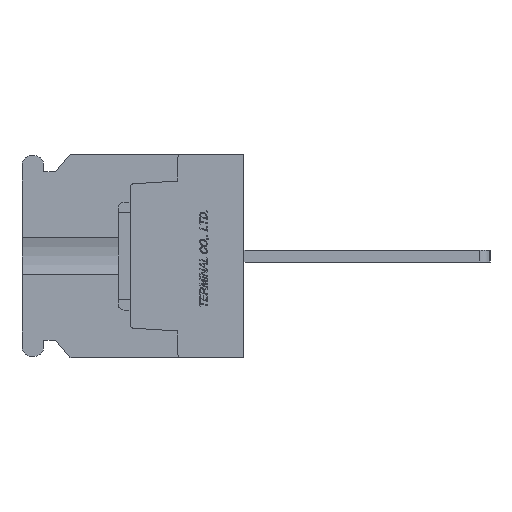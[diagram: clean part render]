
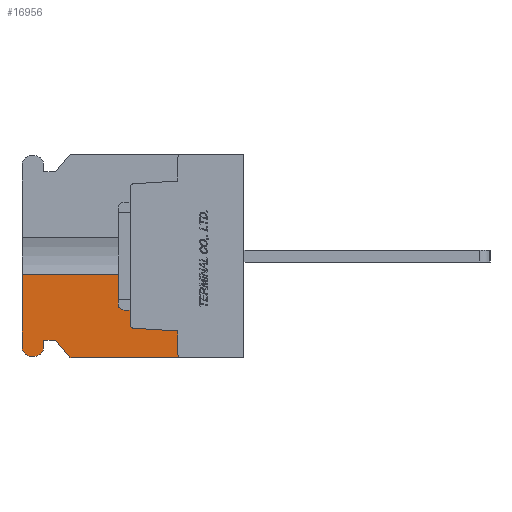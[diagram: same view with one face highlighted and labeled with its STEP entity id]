
A CAD part, left-side view. The second image highlights one B-rep face of the part: STEP entity #16956.
In plain terms, the highlighted planar face has unit normal (-1, 0, 0).
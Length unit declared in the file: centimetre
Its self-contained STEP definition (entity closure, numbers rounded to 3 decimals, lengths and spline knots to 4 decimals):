
#765=CIRCLE('',#28943,0.075);
#766=CIRCLE('',#28944,0.075);
#767=CIRCLE('',#28945,0.03);
#768=CIRCLE('',#28946,0.03);
#1613=VERTEX_POINT('',#24139);
#1614=VERTEX_POINT('',#24140);
#1615=VERTEX_POINT('',#24142);
#1616=VERTEX_POINT('',#24144);
#1617=VERTEX_POINT('',#24146);
#1618=VERTEX_POINT('',#24148);
#1619=VERTEX_POINT('',#24150);
#1620=VERTEX_POINT('',#24152);
#1621=VERTEX_POINT('',#24154);
#1622=VERTEX_POINT('',#24156);
#1623=VERTEX_POINT('',#24158);
#1624=VERTEX_POINT('',#24160);
#1625=VERTEX_POINT('',#24162);
#1626=VERTEX_POINT('',#24164);
#3442=VECTOR('',#19231,1.);
#3443=VECTOR('',#19232,1.);
#3444=VECTOR('',#19233,1.);
#3445=VECTOR('',#19236,1.);
#3446=VECTOR('',#19239,1.);
#3447=VECTOR('',#19240,1.);
#3448=VECTOR('',#19241,1.);
#3449=VECTOR('',#19242,1.);
#3450=VECTOR('',#19245,1.);
#3451=VECTOR('',#19246,1.);
#5320=LINE('',#24138,#3442);
#5321=LINE('',#24141,#3443);
#5322=LINE('',#24143,#3444);
#5323=LINE('',#24147,#3445);
#5324=LINE('',#24151,#3446);
#5325=LINE('',#24153,#3447);
#5326=LINE('',#24155,#3448);
#5327=LINE('',#24157,#3449);
#5328=LINE('',#24161,#3450);
#5329=LINE('',#24163,#3451);
#7362=EDGE_CURVE('',#1613,#1614,#5320,.T.);
#7363=EDGE_CURVE('',#1613,#1615,#5321,.T.);
#7364=EDGE_CURVE('',#1616,#1615,#5322,.T.);
#7365=EDGE_CURVE('',#1617,#1616,#765,.T.);
#7366=EDGE_CURVE('',#1618,#1617,#5323,.T.);
#7367=EDGE_CURVE('',#1619,#1618,#766,.T.);
#7368=EDGE_CURVE('',#1620,#1619,#5324,.T.);
#7369=EDGE_CURVE('',#1621,#1620,#5325,.T.);
#7370=EDGE_CURVE('',#1622,#1621,#5326,.T.);
#7371=EDGE_CURVE('',#1623,#1622,#5327,.T.);
#7372=EDGE_CURVE('',#1624,#1623,#767,.T.);
#7373=EDGE_CURVE('',#1625,#1624,#5328,.T.);
#7374=EDGE_CURVE('',#1626,#1625,#5329,.T.);
#7375=EDGE_CURVE('',#1614,#1626,#768,.T.);
#10652=ORIENTED_EDGE('',*,*,#7362,.F.);
#10653=ORIENTED_EDGE('',*,*,#7363,.T.);
#10654=ORIENTED_EDGE('',*,*,#7364,.F.);
#10655=ORIENTED_EDGE('',*,*,#7365,.F.);
#10656=ORIENTED_EDGE('',*,*,#7366,.F.);
#10657=ORIENTED_EDGE('',*,*,#7367,.F.);
#10658=ORIENTED_EDGE('',*,*,#7368,.F.);
#10659=ORIENTED_EDGE('',*,*,#7369,.F.);
#10660=ORIENTED_EDGE('',*,*,#7370,.F.);
#10661=ORIENTED_EDGE('',*,*,#7371,.F.);
#10662=ORIENTED_EDGE('',*,*,#7372,.F.);
#10663=ORIENTED_EDGE('',*,*,#7373,.F.);
#10664=ORIENTED_EDGE('',*,*,#7374,.F.);
#10665=ORIENTED_EDGE('',*,*,#7375,.F.);
#14816=EDGE_LOOP('',(#10652,#10653,#10654,#10655,#10656,#10657,#10658,#10659,
#10660,#10661,#10662,#10663,#10664,#10665));
#15900=FACE_BOUND('',#14816,.T.);
#16956=ADVANCED_FACE('',(#15900),#17844,.F.);
#17844=PLANE('',#28942);
#19230=DIRECTION('',(1.,0.,0.));
#19231=DIRECTION('',(0.,0.,-1.));
#19232=DIRECTION('',(0.,1.,0.));
#19233=DIRECTION('',(0.,0.,1.));
#19234=DIRECTION('',(1.,0.,0.));
#19235=DIRECTION('',(0.,0.,-0.075));
#19236=DIRECTION('',(0.,1.,0.));
#19237=DIRECTION('',(1.,0.,0.));
#19238=DIRECTION('',(0.,0.,-0.075));
#19239=DIRECTION('',(0.,0.,-1.));
#19240=DIRECTION('',(0.,1.,0.));
#19241=DIRECTION('',(0.,0.625,0.781));
#19242=DIRECTION('',(0.,1.,0.));
#19243=DIRECTION('',(-1.,0.,0.));
#19244=DIRECTION('',(0.,0.,0.03));
#19245=DIRECTION('',(0.,0.,-1.));
#19246=DIRECTION('',(0.,-0.998,-0.061));
#19247=DIRECTION('',(-1.,0.,0.));
#19248=DIRECTION('',(0.,0.,0.03));
#24137=CARTESIAN_POINT('',(-1.1,0.9454,0.));
#24138=CARTESIAN_POINT('',(-1.1,0.95,0.5718));
#24139=CARTESIAN_POINT('',(-1.1,0.95,-0.1521));
#24140=CARTESIAN_POINT('',(-1.1,0.95,-0.5718));
#24141=CARTESIAN_POINT('',(-1.1,1.4,-0.1521));
#24142=CARTESIAN_POINT('',(-1.1,1.85,-0.1521));
#24143=CARTESIAN_POINT('',(-1.1,1.85,-0.76));
#24144=CARTESIAN_POINT('',(-1.1,1.85,-0.76));
#24145=CARTESIAN_POINT('',(-1.1,1.775,-0.76));
#24146=CARTESIAN_POINT('',(-1.1,1.775,-0.835));
#24147=CARTESIAN_POINT('',(-1.1,1.745,-0.835));
#24148=CARTESIAN_POINT('',(-1.1,1.745,-0.835));
#24149=CARTESIAN_POINT('',(-1.1,1.745,-0.76));
#24150=CARTESIAN_POINT('',(-1.1,1.67,-0.76));
#24151=CARTESIAN_POINT('',(-1.1,1.67,-0.7));
#24152=CARTESIAN_POINT('',(-1.1,1.67,-0.7));
#24153=CARTESIAN_POINT('',(-1.1,1.57,-0.7));
#24154=CARTESIAN_POINT('',(-1.1,1.57,-0.7));
#24155=CARTESIAN_POINT('',(-1.1,1.45,-0.85));
#24156=CARTESIAN_POINT('',(-1.1,1.45,-0.85));
#24157=CARTESIAN_POINT('',(-1.1,0.,-0.85));
#24158=CARTESIAN_POINT('',(-1.1,0.52,-0.85));
#24159=CARTESIAN_POINT('',(-1.1,0.52,-0.82));
#24160=CARTESIAN_POINT('',(-1.1,0.55,-0.82));
#24161=CARTESIAN_POINT('',(-1.1,0.55,-0.6245));
#24162=CARTESIAN_POINT('',(-1.1,0.55,-0.6245));
#24163=CARTESIAN_POINT('',(-1.1,0.9218,-0.6017));
#24164=CARTESIAN_POINT('',(-1.1,0.9218,-0.6017));
#24165=CARTESIAN_POINT('',(-1.1,0.92,-0.5718));
#28942=AXIS2_PLACEMENT_3D('',#24137,#19230,$);
#28943=AXIS2_PLACEMENT_3D('',#24145,#19234,#19235);
#28944=AXIS2_PLACEMENT_3D('',#24149,#19237,#19238);
#28945=AXIS2_PLACEMENT_3D('',#24159,#19243,#19244);
#28946=AXIS2_PLACEMENT_3D('',#24165,#19247,#19248);
